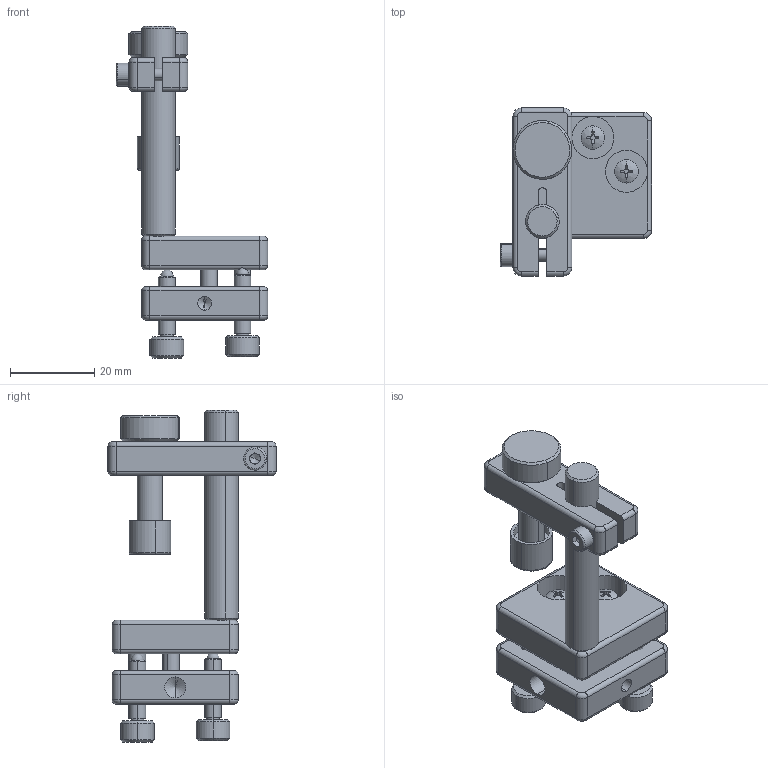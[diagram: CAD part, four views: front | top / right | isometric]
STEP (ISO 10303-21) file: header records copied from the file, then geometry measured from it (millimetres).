
FILE_DESCRIPTION (( 'STEP AP203' ), '1' );
FILE_NAME ('HGMMR130 謗峎覃淕濩噩殤.STEP', '2021-01-16T05:09:48', ( 'yunke' ), ( '' ), 'SwSTEP 2.0', 'SolidWorks 2020', '' );
FILE_SCHEMA (( 'CONFIG_CONTROL_DESIGN' ));
Length unit declared in the file: millimetre
Products named in the file (11): 两维调整棱镜架固定板 HGMMR130-1; 两维调整棱镜架支撑杆 HGMMP150; ѹñ HGMM11100-5; cross recessed pan head screws gb_GB_CROSS_SCREWS_TYPE1 M3X8-8  H type-N; 两维调整棱镜架压块 HGMMR130-3; 两维调整棱镜架活动板 HGMMR130-2; hexagon socket head cap screws gb_GB_FASTENER_SCREWS_HSHCS M3X12-N; 鼠蚚蟀諉璃-肣秶; 两维调整棱镜架螺纹杆 HGMMR130-4; 揤堵 HGMM11100-4; HGMMR130 謗峎覃淕濩噩殤
Assembly tree (15 placements, depth 2):
  HGMMR130 謗峎覃淕濩噩殤
    两维调整棱镜架固定板 HGMMR130-1
    两维调整棱镜架活动板 HGMMR130-2
    两维调整棱镜架支撑杆 HGMMP150
    两维调整棱镜架压块 HGMMR130-3
    揤堵 HGMM11100-4
    ѹñ HGMM11100-5
    两维调整棱镜架螺纹杆 HGMMR130-4  x2
    鼠蚚蟀諉璃-肣秶  x2
    hexagon socket head cap screws gb_GB_FASTENER_SCREWS_HSHCS M3X12-N
    cross recessed pan head screws gb_GB_CROSS_SCREWS_TYPE1 M3X8-8  H type-N  x4
Bounding box: 36 x 40 x 79 mm (x, y, z)
Volume: 21044.3 mm3; surface area: 13904.6 mm2
Topology: 15 solids, 15 shells, 353 faces, 835 edges, 522 vertices
Faces by surface type: cylinder 150, plane 128, cone 35, torus 28, sphere 12
Entity records: 8584 total; most frequent: DIRECTION 1425, CARTESIAN_POINT 1258, ORIENTED_EDGE 1154, AXIS2_PLACEMENT_3D 589, EDGE_CURVE 577, VERTEX_POINT 358, CIRCLE 316, EDGE_LOOP 295
